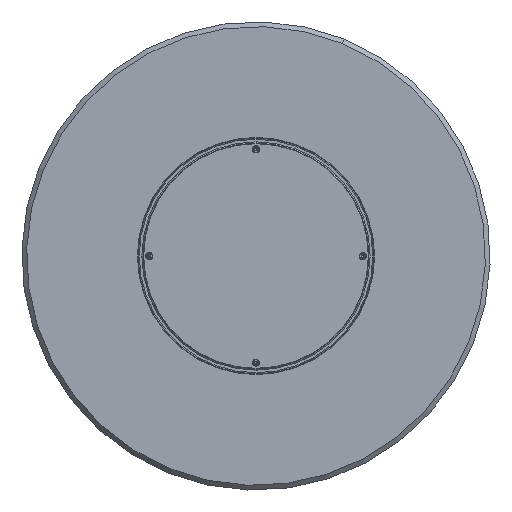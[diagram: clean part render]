
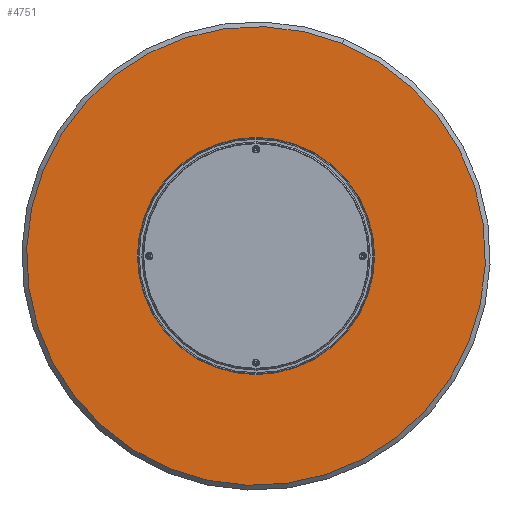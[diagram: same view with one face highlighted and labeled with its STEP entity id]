
A CAD part, front view. The second image highlights one B-rep face of the part: STEP entity #4751.
In plain terms, the highlighted planar face has unit normal (0, -1, 0).
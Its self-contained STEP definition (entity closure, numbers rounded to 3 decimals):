
#50 = DIRECTION ( 'NONE',  ( 0., 0., -1. ) ) ;
#114 = EDGE_CURVE ( 'NONE', #3500, #1281, #4302, .T. ) ;
#134 = PLANE ( 'NONE',  #5184 ) ;
#966 = DIRECTION ( 'NONE',  ( 0., -1., 0. ) ) ;
#1281 = VERTEX_POINT ( 'NONE', #4957 ) ;
#1379 = CARTESIAN_POINT ( 'NONE',  ( 0., 0., 0. ) ) ;
#1622 = CIRCLE ( 'NONE', #3321, 387. ) ;
#1722 = AXIS2_PLACEMENT_3D ( 'NONE', #6091, #2744, #2711 ) ;
#2080 = DIRECTION ( 'NONE',  ( 0., 0., -1. ) ) ;
#2711 = DIRECTION ( 'NONE',  ( 0., 0., -1. ) ) ;
#2744 = DIRECTION ( 'NONE',  ( 0., -1., 0. ) ) ;
#3321 = AXIS2_PLACEMENT_3D ( 'NONE', #1379, #966, #50 ) ;
#3500 = VERTEX_POINT ( 'NONE', #4667 ) ;
#3685 = ORIENTED_EDGE ( 'NONE', *, *, #114, .T. ) ;
#3948 = CARTESIAN_POINT ( 'NONE',  ( 0., 0., 0. ) ) ;
#4236 = FACE_OUTER_BOUND ( 'NONE', #5178, .T. ) ;
#4302 = CIRCLE ( 'NONE', #1722, 387. ) ;
#4667 = CARTESIAN_POINT ( 'NONE',  ( 0., 0., 387. ) ) ;
#4751 = ADVANCED_FACE ( 'NONE', ( #4236 ), #134, .T. ) ;
#4838 = DIRECTION ( 'NONE',  ( 0., -1., 0. ) ) ;
#4957 = CARTESIAN_POINT ( 'NONE',  ( 0., 0., -387. ) ) ;
#5178 = EDGE_LOOP ( 'NONE', ( #3685, #5570 ) ) ;
#5184 = AXIS2_PLACEMENT_3D ( 'NONE', #3948, #4838, #2080 ) ;
#5570 = ORIENTED_EDGE ( 'NONE', *, *, #5694, .T. ) ;
#5694 = EDGE_CURVE ( 'NONE', #1281, #3500, #1622, .T. ) ;
#6091 = CARTESIAN_POINT ( 'NONE',  ( 0., 0., 0. ) ) ;
